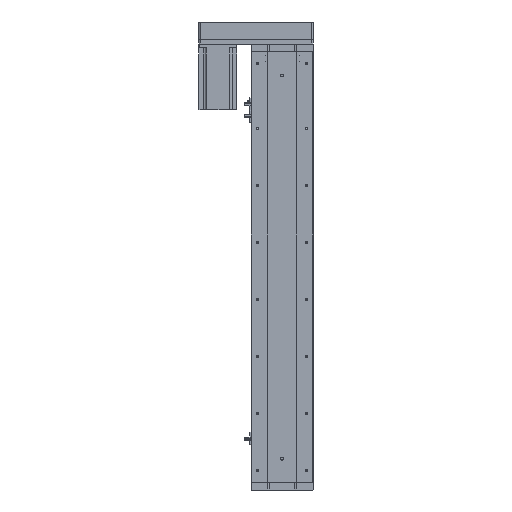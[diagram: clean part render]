
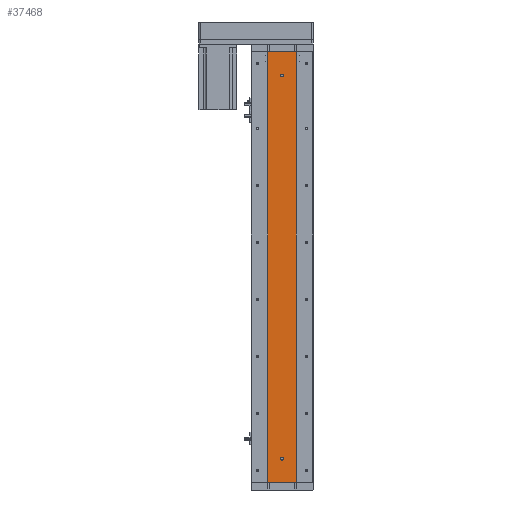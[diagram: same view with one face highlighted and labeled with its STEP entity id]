
A CAD part, left-side view. The second image highlights one B-rep face of the part: STEP entity #37468.
In plain terms, the highlighted planar face has unit normal (-1, 0, 0).
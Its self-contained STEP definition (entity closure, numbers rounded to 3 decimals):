
#1821 = CARTESIAN_POINT ( 'NONE',  ( -24.994, 29.785, 0. ) ) ;
#3335 = EDGE_CURVE ( 'NONE', #8865, #42128, #21505, .T. ) ;
#3800 = LINE ( 'NONE', #45099, #41712 ) ;
#4104 = LINE ( 'NONE', #42938, #22475 ) ;
#4492 = DIRECTION ( 'NONE',  ( 0., 0., -1. ) ) ;
#5048 = ORIENTED_EDGE ( 'NONE', *, *, #44235, .F. ) ;
#6209 = EDGE_CURVE ( 'NONE', #20226, #44818, #4104, .T. ) ;
#8056 = EDGE_CURVE ( 'NONE', #20421, #43652, #10130, .T. ) ;
#8684 = CARTESIAN_POINT ( 'NONE',  ( -24.994, 0., 47. ) ) ;
#8865 = VERTEX_POINT ( 'NONE', #47008 ) ;
#9124 = FACE_OUTER_BOUND ( 'NONE', #12048, .T. ) ;
#10130 = CIRCLE ( 'NONE', #27571, 3. ) ;
#10628 = ORIENTED_EDGE ( 'NONE', *, *, #30975, .T. ) ;
#11725 = EDGE_CURVE ( 'NONE', #31124, #44818, #3800, .T. ) ;
#12048 = EDGE_LOOP ( 'NONE', ( #30678, #28853, #31057, #10628 ) ) ;
#12409 = CARTESIAN_POINT ( 'NONE',  ( -24.994, -29.785, 0. ) ) ;
#12433 = CARTESIAN_POINT ( 'NONE',  ( -24.994, 0., 50. ) ) ;
#14633 = CARTESIAN_POINT ( 'NONE',  ( -24.994, 29.785, 906. ) ) ;
#15802 = DIRECTION ( 'NONE',  ( -1., 0., 0. ) ) ;
#16111 = DIRECTION ( 'NONE',  ( 0., 0., 1. ) ) ;
#16413 = ORIENTED_EDGE ( 'NONE', *, *, #8056, .F. ) ;
#16692 = CARTESIAN_POINT ( 'NONE',  ( -24.994, 29.785, 906. ) ) ;
#19650 = CARTESIAN_POINT ( 'NONE',  ( -24.994, 0., 856. ) ) ;
#20206 = PLANE ( 'NONE',  #23643 ) ;
#20226 = VERTEX_POINT ( 'NONE', #1821 ) ;
#20378 = DIRECTION ( 'NONE',  ( 0., 0., -1. ) ) ;
#20421 = VERTEX_POINT ( 'NONE', #24515 ) ;
#21505 = CIRCLE ( 'NONE', #30947, 3. ) ;
#21658 = ORIENTED_EDGE ( 'NONE', *, *, #3335, .F. ) ;
#21909 = DIRECTION ( 'NONE',  ( -1., 0., 0. ) ) ;
#22094 = VECTOR ( 'NONE', #43395, 1000. ) ;
#22475 = VECTOR ( 'NONE', #46610, 1000. ) ;
#23370 = DIRECTION ( 'NONE',  ( 0., 0., 1. ) ) ;
#23570 = AXIS2_PLACEMENT_3D ( 'NONE', #37832, #15802, #41544 ) ;
#23643 = AXIS2_PLACEMENT_3D ( 'NONE', #16692, #42420, #20378 ) ;
#24515 = CARTESIAN_POINT ( 'NONE',  ( -24.994, 0., 53. ) ) ;
#24995 = CIRCLE ( 'NONE', #23570, 3. ) ;
#25553 = VECTOR ( 'NONE', #40375, 1000. ) ;
#26205 = CARTESIAN_POINT ( 'NONE',  ( -24.994, -29.785, 906. ) ) ;
#27108 = CARTESIAN_POINT ( 'NONE',  ( -24.994, 29.785, 906. ) ) ;
#27571 = AXIS2_PLACEMENT_3D ( 'NONE', #12433, #38113, #16111 ) ;
#27851 = LINE ( 'NONE', #14633, #25553 ) ;
#28602 = CARTESIAN_POINT ( 'NONE',  ( -24.994, 29.785, 906. ) ) ;
#28610 = FACE_BOUND ( 'NONE', #42277, .T. ) ;
#28853 = ORIENTED_EDGE ( 'NONE', *, *, #11725, .F. ) ;
#30678 = ORIENTED_EDGE ( 'NONE', *, *, #6209, .T. ) ;
#30947 = AXIS2_PLACEMENT_3D ( 'NONE', #47570, #21909, #35708 ) ;
#30975 = EDGE_CURVE ( 'NONE', #40927, #20226, #27851, .T. ) ;
#31057 = ORIENTED_EDGE ( 'NONE', *, *, #40240, .F. ) ;
#31124 = VERTEX_POINT ( 'NONE', #26205 ) ;
#31514 = EDGE_LOOP ( 'NONE', ( #43502, #21658 ) ) ;
#34535 = CARTESIAN_POINT ( 'NONE',  ( -24.994, 0., 859. ) ) ;
#35708 = DIRECTION ( 'NONE',  ( 0., 0., 1. ) ) ;
#37267 = FACE_BOUND ( 'NONE', #31514, .T. ) ;
#37468 = ADVANCED_FACE ( 'NONE', ( #37267, #28610, #9124 ), #20206, .F. ) ;
#37832 = CARTESIAN_POINT ( 'NONE',  ( -24.994, 0., 50. ) ) ;
#38113 = DIRECTION ( 'NONE',  ( -1., 0., 0. ) ) ;
#38417 = EDGE_CURVE ( 'NONE', #42128, #8865, #40152, .T. ) ;
#40152 = CIRCLE ( 'NONE', #41899, 3. ) ;
#40240 = EDGE_CURVE ( 'NONE', #40927, #31124, #42781, .T. ) ;
#40375 = DIRECTION ( 'NONE',  ( 0., 0., -1. ) ) ;
#40927 = VERTEX_POINT ( 'NONE', #27108 ) ;
#41544 = DIRECTION ( 'NONE',  ( 0., 0., 1. ) ) ;
#41712 = VECTOR ( 'NONE', #4492, 1000. ) ;
#41899 = AXIS2_PLACEMENT_3D ( 'NONE', #19650, #45390, #23370 ) ;
#42128 = VERTEX_POINT ( 'NONE', #34535 ) ;
#42277 = EDGE_LOOP ( 'NONE', ( #16413, #5048 ) ) ;
#42420 = DIRECTION ( 'NONE',  ( 1., 0., 0. ) ) ;
#42781 = LINE ( 'NONE', #28602, #22094 ) ;
#42938 = CARTESIAN_POINT ( 'NONE',  ( -24.994, 29.785, 0. ) ) ;
#43395 = DIRECTION ( 'NONE',  ( 0., -1., 0. ) ) ;
#43502 = ORIENTED_EDGE ( 'NONE', *, *, #38417, .F. ) ;
#43652 = VERTEX_POINT ( 'NONE', #8684 ) ;
#44235 = EDGE_CURVE ( 'NONE', #43652, #20421, #24995, .T. ) ;
#44818 = VERTEX_POINT ( 'NONE', #12409 ) ;
#45099 = CARTESIAN_POINT ( 'NONE',  ( -24.994, -29.785, 906. ) ) ;
#45390 = DIRECTION ( 'NONE',  ( -1., 0., 0. ) ) ;
#46610 = DIRECTION ( 'NONE',  ( 0., -1., 0. ) ) ;
#47008 = CARTESIAN_POINT ( 'NONE',  ( -24.994, 0., 853. ) ) ;
#47570 = CARTESIAN_POINT ( 'NONE',  ( -24.994, 0., 856. ) ) ;
